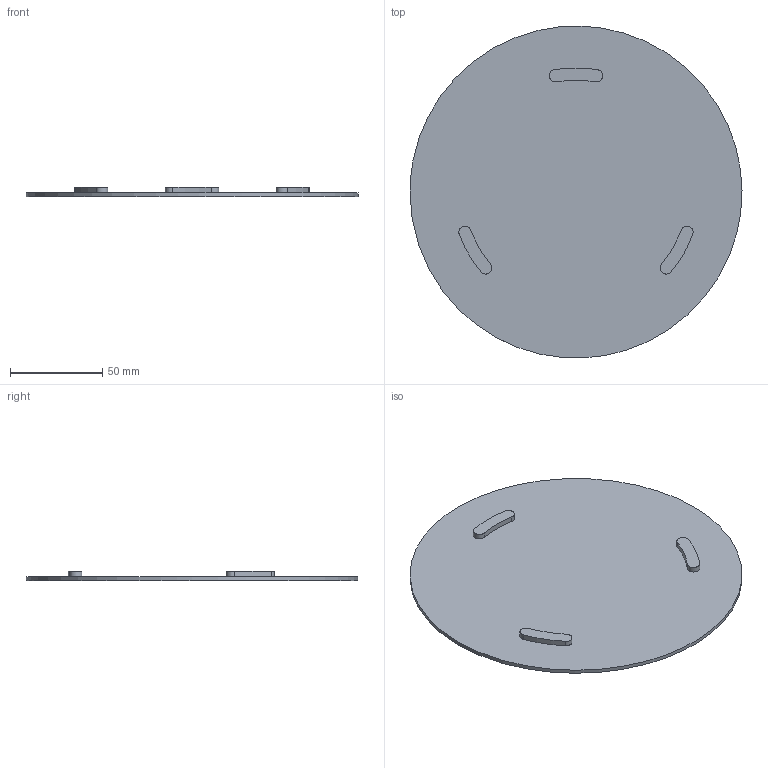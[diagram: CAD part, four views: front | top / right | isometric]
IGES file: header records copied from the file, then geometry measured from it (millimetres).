
Global section: file name: bed_top v4; native system: unknown; preprocessor: unknown; author: unknown; organization: unknown; date: 20200329.203553; units: millimetre
Bounding box: 180 x 179.9 x 5 mm (x, y, z)
Volume: 52619.6 mm3; surface area: 52623.2 mm2
Topology: 1 solids, 1 shells, 18 faces, 39 edges, 26 vertices
Faces by surface type: bspline 18
